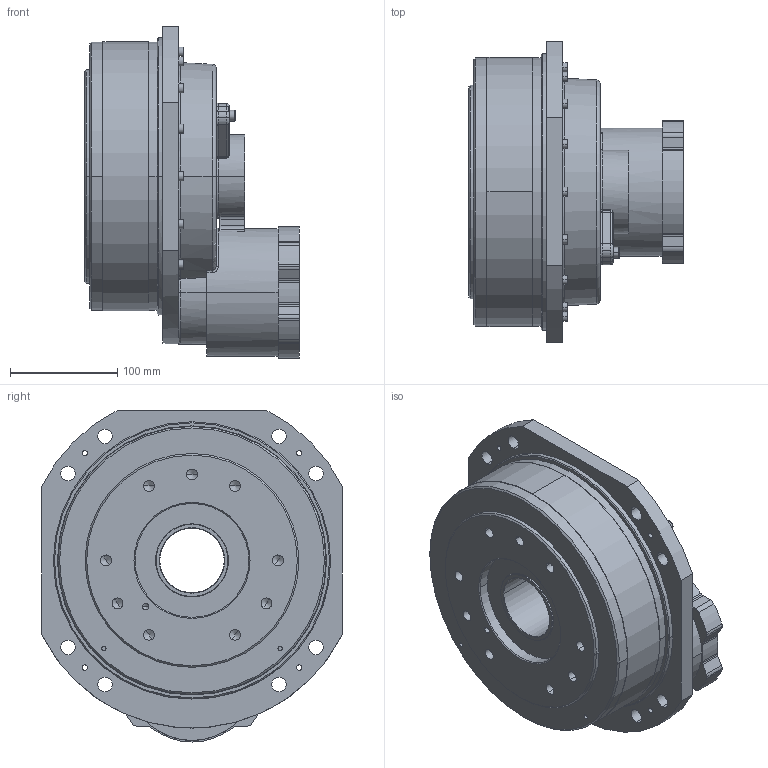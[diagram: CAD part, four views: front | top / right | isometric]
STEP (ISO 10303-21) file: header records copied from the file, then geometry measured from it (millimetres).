
FILE_DESCRIPTION((''),'2;1');
FILE_NAME('RD-100C.stp','2004-09-16T14:13:16',(''),(''),'Mechanical Desktop.R8.0.24.0','Mechanical Desktop.R8.0.24.0',', , ');
FILE_SCHEMA(('CONFIG_CONTROL_DESIGN'));
Length unit declared in the file: millimetre
Products named in the file (1): DRAWING4
Bounding box: 200.1 x 280 x 309 mm (x, y, z)
Volume: 6217576.5 mm3; surface area: 335493.9 mm2
Topology: 1 solids, 2 shells, 494 faces, 1300 edges, 811 vertices
Faces by surface type: bspline 151, plane 133, cylinder 118, cone 55, torus 37
Entity records: 17391 total; most frequent: CARTESIAN_POINT 5774, ORIENTED_EDGE 2474, DIRECTION 2394, EDGE_CURVE 1237, AXIS2_PLACEMENT_3D 946, VERTEX_POINT 811, CIRCLE 602, EDGE_LOOP 586
